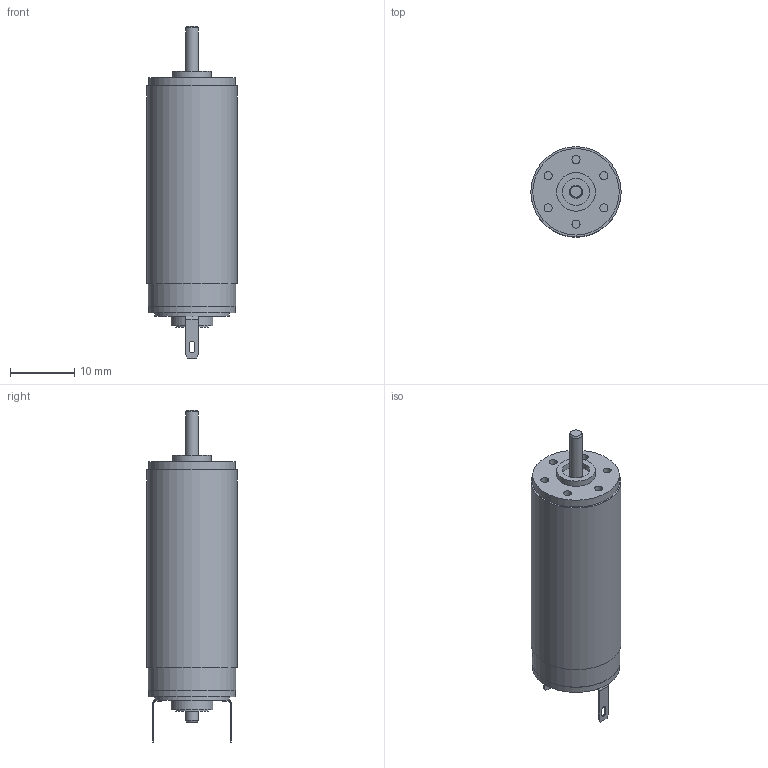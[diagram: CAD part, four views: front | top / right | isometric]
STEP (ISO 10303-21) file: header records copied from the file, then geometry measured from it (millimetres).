
FILE_DESCRIPTION(/* description */ (''),/* implementation_level */ '2;1');
FILE_NAME(/* name */ '1437SXR.stp',/* time_stamp */ '2025-07-21T11:25:18+02:00',/* author */ ('DR. FRITZ FAULHABER GmbH & Co. KG'),/* organization */ ('DR. FRITZ FAULHABER GmbH & Co. KG'),/* preprocessor_version */ 'ST-DEVELOPER v20',/* originating_system */ 'SIEMENS PLM Software NX2412.6001',/* authorisation */ '');
FILE_SCHEMA (('AUTOMOTIVE_DESIGN { 1 0 10303 214 3 1 1 1 }'));
Length unit declared in the file: millimetre
Products named in the file (1): 012040_objects
Bounding box: 14 x 14 x 51.5 mm (x, y, z)
Volume: 5700.4 mm3; surface area: 2161.5 mm2
Topology: 1 solids, 1 shells, 97 faces, 220 edges, 149 vertices
Faces by surface type: plane 54, cylinder 37, cone 6
Full cylindrical faces by diameter (mm): 1 x4, 1.25 x6, 2 x2, 4.2 x1, 5 x1, 6 x1, 6.5 x1, 11.58 x1, 13.4 x1, 13.5 x1, 13.6 x1, 14 x1
Entity records: 2538 total; most frequent: DIRECTION 456, CARTESIAN_POINT 414, ORIENTED_EDGE 360, EDGE_CURVE 180, AXIS2_PLACEMENT_3D 178, EDGE_LOOP 152, VERTEX_POINT 136, LINE 100
